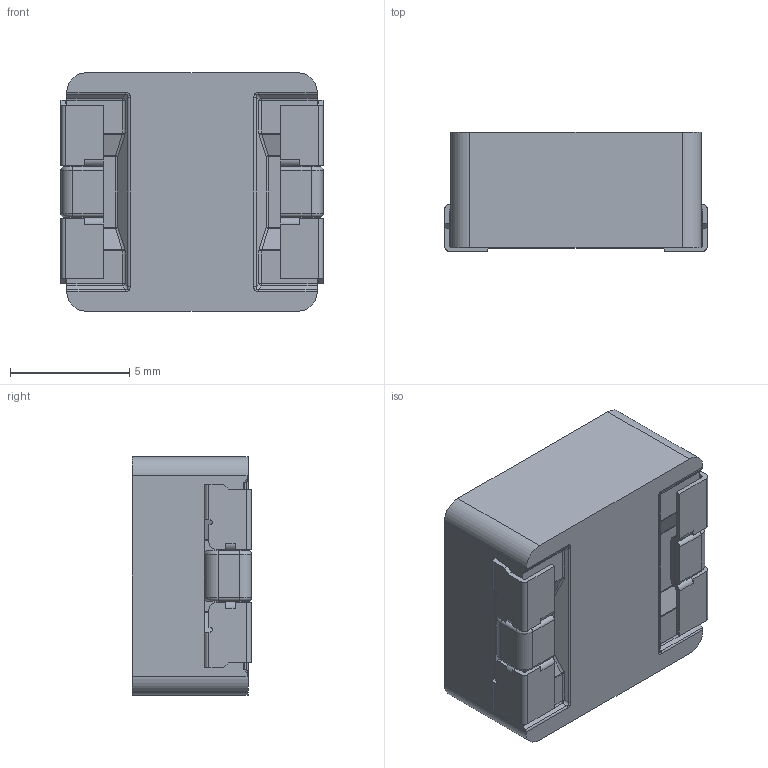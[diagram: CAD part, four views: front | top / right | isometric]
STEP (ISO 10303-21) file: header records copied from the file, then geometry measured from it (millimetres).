
FILE_DESCRIPTION (( 'STEP AP214' ), '1' );
FILE_NAME ('ETQP5MR68YSC.STEP', '2018-04-27T06:16:18', ( '' ), ( '' ), 'SwSTEP 2.0', 'SolidWorks 2015', '' );
FILE_SCHEMA (( 'AUTOMOTIVE_DESIGN' ));
Length unit declared in the file: millimetre
Products named in the file (1): ETQP5MR68YSC
Bounding box: 11 x 5 x 10 mm (x, y, z)
Volume: 502.1 mm3; surface area: 515.6 mm2
Topology: 1 solids, 1 shells, 289 faces, 802 edges, 500 vertices
Faces by surface type: plane 145, cylinder 116, bspline 10, torus 8, sphere 8, cone 2
Entity records: 12489 total; most frequent: CARTESIAN_POINT 1834, ORIENTED_EDGE 1604, DIRECTION 1564, EDGE_CURVE 802, LINE 528, VECTOR 528, AXIS2_PLACEMENT_3D 518, VERTEX_POINT 500
